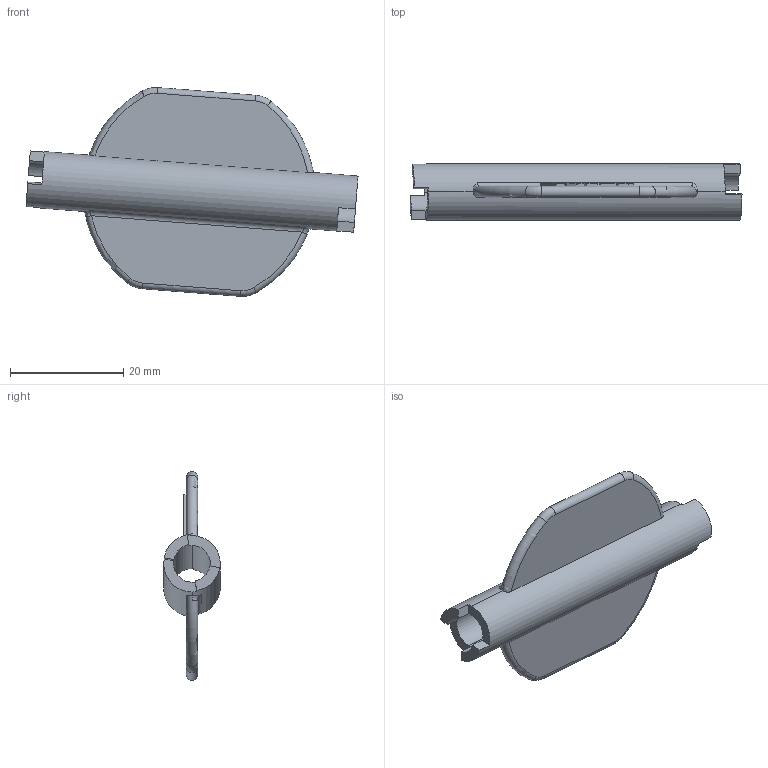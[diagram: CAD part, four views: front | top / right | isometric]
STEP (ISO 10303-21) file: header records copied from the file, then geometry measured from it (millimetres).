
FILE_DESCRIPTION((''),'2;1');
FILE_NAME('0000237127_PRT','2025-11-12T18:33:49',('Wyndorps'),(''),'CREO PARAMETRIC BY PTC INC, 2025010','CREO PARAMETRIC BY PTC INC, 2025010','');
FILE_SCHEMA(('CONFIG_CONTROL_DESIGN'));
Length unit declared in the file: millimetre
Products named in the file (1): 0000237127_PRT
Bounding box: 58.71 x 10 x 36.91 mm (x, y, z)
Volume: 4184 mm3; surface area: 4680.9 mm2
Topology: 1 solids, 1 shells, 81 faces, 220 edges, 144 vertices
Faces by surface type: plane 55, cylinder 12, torus 8, bspline 4, extrusion 2
Entity records: 2925 total; most frequent: CARTESIAN_POINT 846, ORIENTED_EDGE 440, DIRECTION 404, EDGE_CURVE 220, VERTEX_POINT 144, VECTOR 142, LINE 140, AXIS2_PLACEMENT_3D 131
